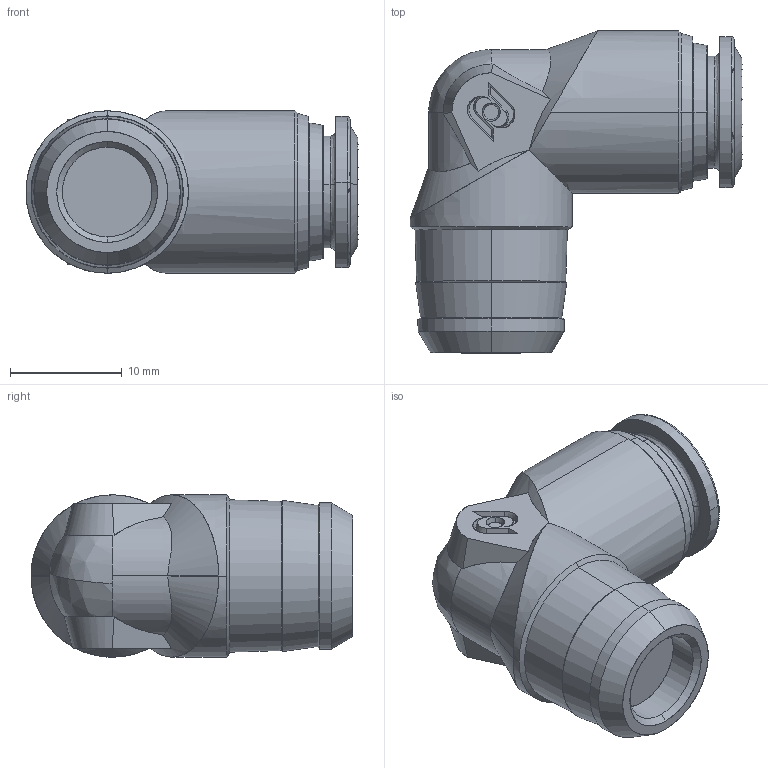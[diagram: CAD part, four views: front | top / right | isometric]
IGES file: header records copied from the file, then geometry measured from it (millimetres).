
Start section: SolidWorks IGES file using analytic representation for surfaces
Global section: file name: K:\Disegni Esecutivi\Serie 57000\ASSIEMI_57000\57100\ASSIEMI_PIENI_57100\5710000005.IGS; native system: SolidWorks 2007; preprocessor: SolidWorks 2007; author: cad02; date: 080204.145123; units: millimetre
Bounding box: 29.65 x 28.75 x 14.5 mm (x, y, z)
Surface area: 2461.9 mm2 (no closed solid volume)
Topology: 0 solids, 0 shells, 121 faces, 1524 edges, 1522 vertices
Faces by surface type: revolution 65, bspline 56
